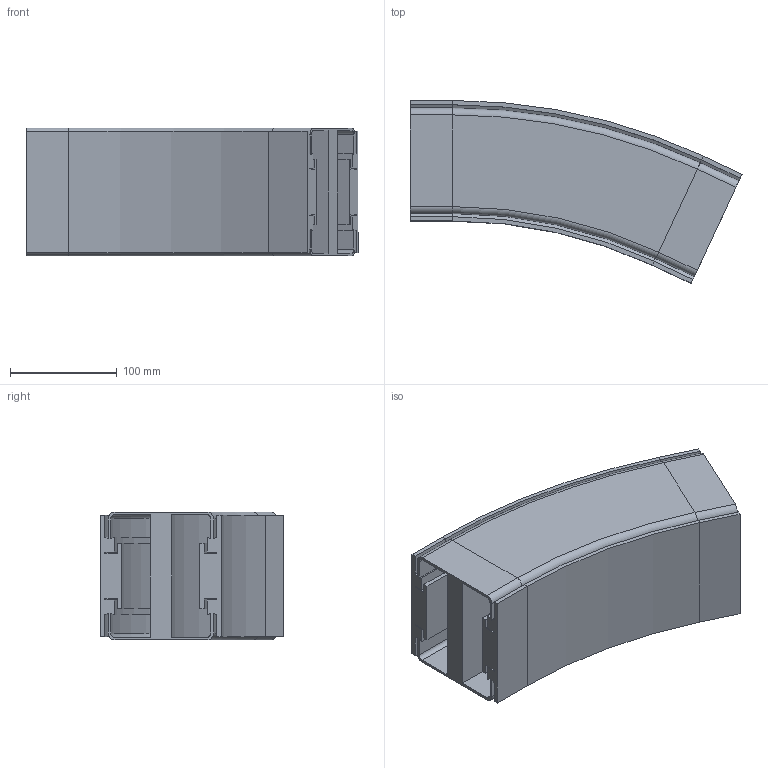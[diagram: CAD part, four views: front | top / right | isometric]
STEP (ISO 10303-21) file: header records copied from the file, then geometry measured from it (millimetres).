
FILE_DESCRIPTION (( 'STEP AP214' ), '1' );
FILE_NAME ('VC.120 Verticale bochtsectie.R500 25.STEP', '2017-02-08T08:10:14', ( '' ), ( '' ), 'SwSTEP 2.0', 'SolidWorks 2016', '' );
FILE_SCHEMA (( 'AUTOMOTIVE_DESIGN' ));
Length unit declared in the file: millimetre
Products named in the file (1): VC.120 Verticale bochtsectie.R500 25
Bounding box: 311.44 x 171.46 x 120 mm (x, y, z)
Volume: 1758026.5 mm3; surface area: 436889.8 mm2
Topology: 1 solids, 1 shells, 206 faces, 476 edges, 272 vertices
Faces by surface type: plane 144, cylinder 46, cone 8, torus 8
Entity records: 5674 total; most frequent: DIRECTION 990, CARTESIAN_POINT 955, ORIENTED_EDGE 952, EDGE_CURVE 476, VECTOR 376, LINE 376, AXIS2_PLACEMENT_3D 307, VERTEX_POINT 272
